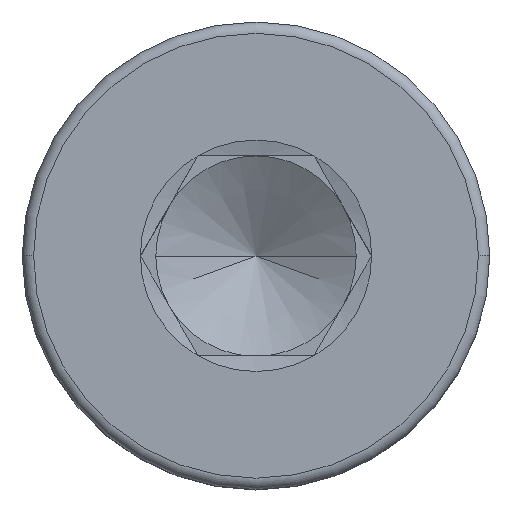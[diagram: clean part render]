
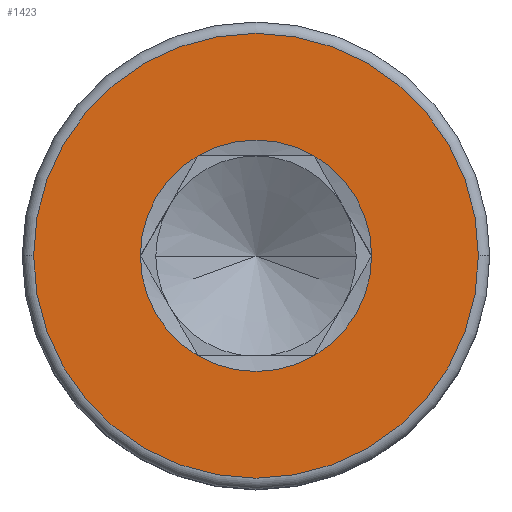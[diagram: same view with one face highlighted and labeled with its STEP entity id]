
A CAD part, top view. The second image highlights one B-rep face of the part: STEP entity #1423.
In plain terms, the highlighted planar face has unit normal (0, 0, 1).
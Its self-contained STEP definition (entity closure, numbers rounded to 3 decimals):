
#28 = DIRECTION ( 'NONE',  ( 0., 0., 1. ) ) ;
#47 = CARTESIAN_POINT ( 'NONE',  ( 0., 0., 4. ) ) ;
#61 = CARTESIAN_POINT ( 'NONE',  ( 0.866, 1.5, 4. ) ) ;
#64 = AXIS2_PLACEMENT_3D ( 'NONE', #1366, #807, #972 ) ;
#71 = EDGE_CURVE ( 'NONE', #1559, #160, #109, .T. ) ;
#83 = EDGE_LOOP ( 'NONE', ( #1612, #1324, #1704, #1066, #941, #651 ) ) ;
#109 = CIRCLE ( 'NONE', #64, 1.732 ) ;
#148 = DIRECTION ( 'NONE',  ( 1., 0., 0. ) ) ;
#160 = VERTEX_POINT ( 'NONE', #1386 ) ;
#172 = DIRECTION ( 'NONE',  ( 1., 0., 0. ) ) ;
#185 = CARTESIAN_POINT ( 'NONE',  ( 1.732, 0., 4. ) ) ;
#207 = EDGE_CURVE ( 'NONE', #1634, #1443, #368, .T. ) ;
#255 = CIRCLE ( 'NONE', #1044, 1.732 ) ;
#257 = CARTESIAN_POINT ( 'NONE',  ( 0., 0., 4. ) ) ;
#280 = VERTEX_POINT ( 'NONE', #552 ) ;
#300 = CARTESIAN_POINT ( 'NONE',  ( 3.33, 0., 4. ) ) ;
#329 = EDGE_CURVE ( 'NONE', #1358, #446, #921, .T. ) ;
#347 = EDGE_CURVE ( 'NONE', #160, #1637, #255, .T. ) ;
#368 = CIRCLE ( 'NONE', #900, 1.732 ) ;
#374 = AXIS2_PLACEMENT_3D ( 'NONE', #1687, #28, #1660 ) ;
#381 = CARTESIAN_POINT ( 'NONE',  ( 0., 0., 4. ) ) ;
#392 = DIRECTION ( 'NONE',  ( 0., 0., 1. ) ) ;
#409 = CIRCLE ( 'NONE', #518, 3.33 ) ;
#416 = DIRECTION ( 'NONE',  ( 0., 0., 1. ) ) ;
#436 = FACE_OUTER_BOUND ( 'NONE', #1126, .T. ) ;
#443 = AXIS2_PLACEMENT_3D ( 'NONE', #566, #416, #148 ) ;
#446 = VERTEX_POINT ( 'NONE', #300 ) ;
#518 = AXIS2_PLACEMENT_3D ( 'NONE', #47, #711, #1694 ) ;
#538 = DIRECTION ( 'NONE',  ( 1., 0., 0. ) ) ;
#552 = CARTESIAN_POINT ( 'NONE',  ( -0.866, -1.5, 4. ) ) ;
#556 = DIRECTION ( 'NONE',  ( 0., 0., 1. ) ) ;
#566 = CARTESIAN_POINT ( 'NONE',  ( 0., 0., 4. ) ) ;
#651 = ORIENTED_EDGE ( 'NONE', *, *, #71, .F. ) ;
#652 = CARTESIAN_POINT ( 'NONE',  ( -3.33, 0., 4. ) ) ;
#697 = CIRCLE ( 'NONE', #1142, 1.732 ) ;
#711 = DIRECTION ( 'NONE',  ( 0., 0., 1. ) ) ;
#716 = CARTESIAN_POINT ( 'NONE',  ( 0., 0., 4. ) ) ;
#719 = DIRECTION ( 'NONE',  ( 0., 0., 1. ) ) ;
#732 = CIRCLE ( 'NONE', #443, 1.732 ) ;
#807 = DIRECTION ( 'NONE',  ( 0., 0., 1. ) ) ;
#833 = ORIENTED_EDGE ( 'NONE', *, *, #329, .T. ) ;
#847 = CIRCLE ( 'NONE', #374, 1.732 ) ;
#848 = DIRECTION ( 'NONE',  ( 1., 0., 0. ) ) ;
#858 = FACE_BOUND ( 'NONE', #83, .T. ) ;
#900 = AXIS2_PLACEMENT_3D ( 'NONE', #381, #933, #1210 ) ;
#908 = CARTESIAN_POINT ( 'NONE',  ( 0.866, -1.5, 4. ) ) ;
#921 = CIRCLE ( 'NONE', #1650, 3.33 ) ;
#933 = DIRECTION ( 'NONE',  ( 0., 0., 1. ) ) ;
#941 = ORIENTED_EDGE ( 'NONE', *, *, #347, .F. ) ;
#949 = DIRECTION ( 'NONE',  ( 1., 0., 0. ) ) ;
#972 = DIRECTION ( 'NONE',  ( 1., 0., 0. ) ) ;
#984 = EDGE_CURVE ( 'NONE', #1637, #280, #697, .T. ) ;
#1044 = AXIS2_PLACEMENT_3D ( 'NONE', #257, #392, #949 ) ;
#1060 = EDGE_CURVE ( 'NONE', #446, #1358, #409, .T. ) ;
#1066 = ORIENTED_EDGE ( 'NONE', *, *, #984, .F. ) ;
#1087 = EDGE_CURVE ( 'NONE', #280, #1634, #847, .T. ) ;
#1126 = EDGE_LOOP ( 'NONE', ( #1411, #833 ) ) ;
#1142 = AXIS2_PLACEMENT_3D ( 'NONE', #716, #1558, #172 ) ;
#1210 = DIRECTION ( 'NONE',  ( 1., 0., 0. ) ) ;
#1278 = PLANE ( 'NONE',  #1407 ) ;
#1324 = ORIENTED_EDGE ( 'NONE', *, *, #207, .F. ) ;
#1358 = VERTEX_POINT ( 'NONE', #652 ) ;
#1366 = CARTESIAN_POINT ( 'NONE',  ( 0., 0., 4. ) ) ;
#1386 = CARTESIAN_POINT ( 'NONE',  ( -0.866, 1.5, 4. ) ) ;
#1407 = AXIS2_PLACEMENT_3D ( 'NONE', #1552, #719, #848 ) ;
#1411 = ORIENTED_EDGE ( 'NONE', *, *, #1060, .T. ) ;
#1423 = ADVANCED_FACE ( 'NONE', ( #436, #858 ), #1278, .T. ) ;
#1443 = VERTEX_POINT ( 'NONE', #185 ) ;
#1448 = EDGE_CURVE ( 'NONE', #1443, #1559, #732, .T. ) ;
#1552 = CARTESIAN_POINT ( 'NONE',  ( 0., 0., 4. ) ) ;
#1558 = DIRECTION ( 'NONE',  ( 0., 0., 1. ) ) ;
#1559 = VERTEX_POINT ( 'NONE', #61 ) ;
#1612 = ORIENTED_EDGE ( 'NONE', *, *, #1448, .F. ) ;
#1634 = VERTEX_POINT ( 'NONE', #908 ) ;
#1637 = VERTEX_POINT ( 'NONE', #1715 ) ;
#1650 = AXIS2_PLACEMENT_3D ( 'NONE', #1785, #556, #538 ) ;
#1660 = DIRECTION ( 'NONE',  ( 1., 0., 0. ) ) ;
#1687 = CARTESIAN_POINT ( 'NONE',  ( 0., 0., 4. ) ) ;
#1694 = DIRECTION ( 'NONE',  ( 1., 0., 0. ) ) ;
#1704 = ORIENTED_EDGE ( 'NONE', *, *, #1087, .F. ) ;
#1715 = CARTESIAN_POINT ( 'NONE',  ( -1.732, 0., 4. ) ) ;
#1785 = CARTESIAN_POINT ( 'NONE',  ( 0., 0., 4. ) ) ;
